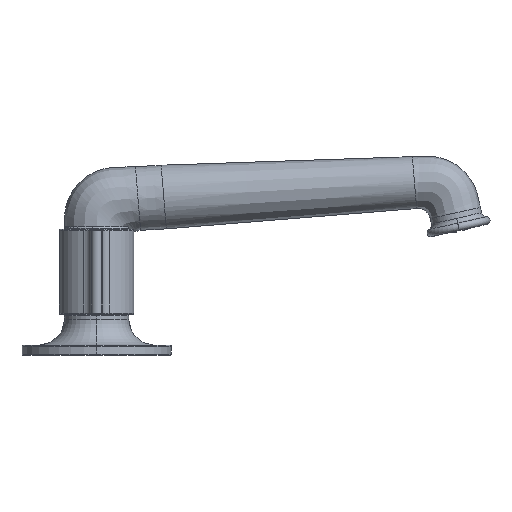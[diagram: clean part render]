
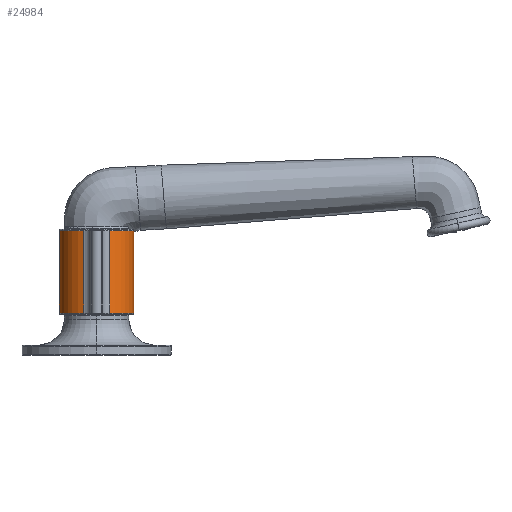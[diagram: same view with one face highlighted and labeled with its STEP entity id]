
A CAD part, left-side view. The second image highlights one B-rep face of the part: STEP entity #24984.
In plain terms, the highlighted cylindrical face has radius 14.5 mm (diameter 29 mm), a partial arc.
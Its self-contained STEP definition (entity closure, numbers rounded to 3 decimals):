
#24277=CARTESIAN_POINT('',(-120.,0.,48.5));
#24278=DIRECTION('',(0.,0.,1.));
#24279=DIRECTION('',(-0.937,-0.349,0.));
#24280=AXIS2_PLACEMENT_3D('',#24277,#24278,#24279);
#24282=DIRECTION('',(0.,0.,1.));
#24283=VECTOR('',#24282,32.);
#24284=CARTESIAN_POINT('',(-133.589,5.057,
16.5));
#24285=LINE('',#24284,#24283);
#24286=CARTESIAN_POINT('',(-120.,0.,16.5));
#24287=DIRECTION('',(0.,0.,-1.));
#24288=DIRECTION('',(-0.937,0.349,0.));
#24289=AXIS2_PLACEMENT_3D('',#24286,#24287,#24288);
#24291=DIRECTION('',(0.,0.,1.));
#24292=VECTOR('',#24291,32.);
#24293=CARTESIAN_POINT('',(-133.589,-5.057,
16.5));
#24294=LINE('',#24293,#24292);
#24835=CARTESIAN_POINT('',(-133.589,-5.057,
48.5));
#24836=CARTESIAN_POINT('',(-133.589,5.057,
48.5));
#24837=VERTEX_POINT('',#24835);
#24838=VERTEX_POINT('',#24836);
#24843=CARTESIAN_POINT('',(-133.589,5.057,
16.5));
#24844=CARTESIAN_POINT('',(-133.589,-5.057,
16.5));
#24845=VERTEX_POINT('',#24843);
#24846=VERTEX_POINT('',#24844);
#24970=CARTESIAN_POINT('',(-120.,0.,16.));
#24971=DIRECTION('',(0.,0.,1.));
#24972=DIRECTION('',(-1.,0.,0.));
#24973=AXIS2_PLACEMENT_3D('',#24970,#24971,#24972);
#24974=CYLINDRICAL_SURFACE('',#24973,14.5);
#24975=ORIENTED_EDGE('',*,*,#24956,.T.);
#24977=ORIENTED_EDGE('',*,*,#24976,.F.);
#24979=ORIENTED_EDGE('',*,*,#24978,.T.);
#24981=ORIENTED_EDGE('',*,*,#24980,.T.);
#24982=EDGE_LOOP('',(#24975,#24977,#24979,#24981));
#24983=FACE_OUTER_BOUND('',#24982,.F.);
#24281=CIRCLE('',#24280,14.5);
#24290=CIRCLE('',#24289,14.5);
#24956=EDGE_CURVE('',#24837,#24838,#24281,.T.);
#24976=EDGE_CURVE('',#24845,#24838,#24285,.T.);
#24978=EDGE_CURVE('',#24845,#24846,#24290,.T.);
#24980=EDGE_CURVE('',#24846,#24837,#24294,.T.);
#24984=ADVANCED_FACE('',(#24983),#24974,.T.);
